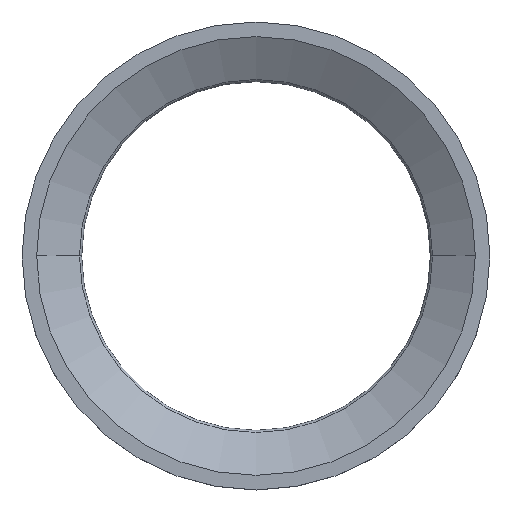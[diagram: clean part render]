
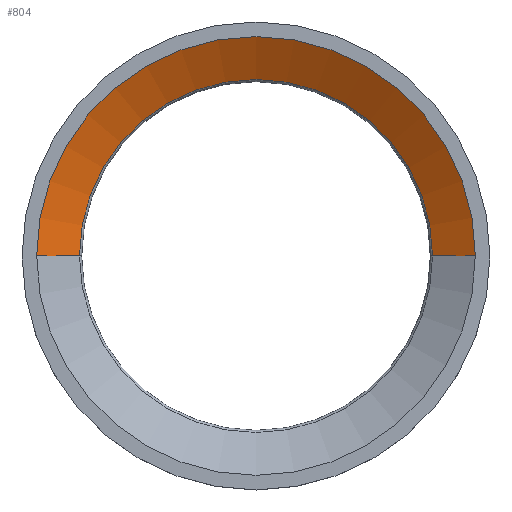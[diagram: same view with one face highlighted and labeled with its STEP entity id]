
A CAD part, top view. The second image highlights one B-rep face of the part: STEP entity #804.
In plain terms, the highlighted conical face has half-angle 60 degrees and reference radius 88 mm.
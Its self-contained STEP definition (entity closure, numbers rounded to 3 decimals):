
#112=DIRECTION('',(-0.866,0.,-0.5));
#113=VECTOR('',#112,21.939);
#114=CARTESIAN_POINT('',(97.5,0.,25.));
#115=LINE('',#114,#113);
#116=CARTESIAN_POINT('',(0.,0.,14.03));
#117=DIRECTION('',(0.,0.,1.));
#118=DIRECTION('',(1.,0.,0.));
#119=AXIS2_PLACEMENT_3D('',#116,#117,#118);
#121=DIRECTION('',(0.866,0.,-0.5));
#122=VECTOR('',#121,21.939);
#123=CARTESIAN_POINT('',(-97.5,0.,
25.));
#124=LINE('',#123,#122);
#140=CARTESIAN_POINT('',(0.,0.,25.));
#141=DIRECTION('',(0.,0.,-1.));
#142=DIRECTION('',(-1.,0.,0.));
#143=AXIS2_PLACEMENT_3D('',#140,#141,#142);
#519=CARTESIAN_POINT('',(97.5,0.,
25.));
#520=CARTESIAN_POINT('',(-97.5,0.,
25.));
#521=VERTEX_POINT('',#519);
#522=VERTEX_POINT('',#520);
#527=CARTESIAN_POINT('',(-78.5,0.,
14.03));
#528=CARTESIAN_POINT('',(78.5,0.,14.03));
#529=VERTEX_POINT('',#527);
#530=VERTEX_POINT('',#528);
#792=CARTESIAN_POINT('',(0.,0.,19.515));
#793=DIRECTION('',(0.,0.,1.));
#794=DIRECTION('',(0.,-1.,0.));
#795=AXIS2_PLACEMENT_3D('',#792,#793,#794);
#796=CONICAL_SURFACE('',#795,88.,60.);
#797=ORIENTED_EDGE('',*,*,#757,.T.);
#798=ORIENTED_EDGE('',*,*,#787,.F.);
#800=ORIENTED_EDGE('',*,*,#799,.T.);
#801=ORIENTED_EDGE('',*,*,#783,.T.);
#802=EDGE_LOOP('',(#797,#798,#800,#801));
#803=FACE_OUTER_BOUND('',#802,.F.);
#120=CIRCLE('',#119,78.5);
#144=CIRCLE('',#143,97.5);
#757=EDGE_CURVE('',#530,#529,#120,.T.);
#783=EDGE_CURVE('',#521,#530,#115,.T.);
#787=EDGE_CURVE('',#522,#529,#124,.T.);
#799=EDGE_CURVE('',#522,#521,#144,.T.);
#804=ADVANCED_FACE('',(#803),#796,.F.);
